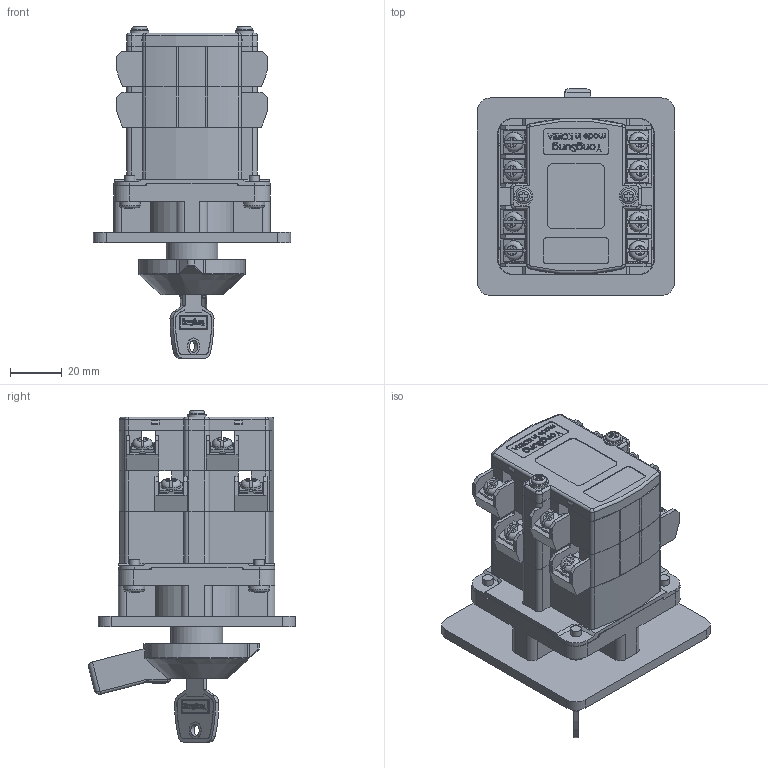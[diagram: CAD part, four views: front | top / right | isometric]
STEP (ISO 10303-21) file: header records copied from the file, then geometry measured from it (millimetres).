
FILE_DESCRIPTION(/* description */ (''),/* implementation_level */ '2;1');
FILE_NAME(/* name */ 'C:\Users\Oh\Desktop\YSKDNC3211-74M20L3.stp',/* time_stamp */ '2021-05-24T10:31:37+09:00',/* author */ ('우현곤'),/* organization */ (''),/* preprocessor_version */ 'ST-DEVELOPER v16.5',/* originating_system */ 'Autodesk Inventor 2017',/* authorisation */ '');
FILE_SCHEMA (('AUTOMOTIVE_DESIGN { 1 0 10303 214 3 1 1 }'));
Length unit declared in the file: millimetre
Products named in the file (19): YSKDNC3211-74M20L3; SCREW WASHER M3.5; BRACKET 6TYPE; SHAFT 6; SCREW 4; mounting plate; body; Kye assy; handle; name plate; Kye; HANDLE BOLT; BOLT M4; contact block ass'y 30A 121107.SLDPRT; contact block 30A 121107; terminal-1 30A 121107; terminal-2 30A 121107; cover 30A 121107; body 30A 121107
Assembly tree (30 placements, depth 2):
  YSKDNC3211-74M20L3
    SCREW WASHER M3.5  x2
    BRACKET 6TYPE
    SHAFT 6
    SCREW 4  x8
    mounting plate
    body
    Kye assy
    handle
    name plate
    Kye
    HANDLE BOLT
    BOLT M4  x4
    cover 30A 121107
    body 30A 121107
  contact block ass'y 30A 121107.SLDPRT
    contact block 30A 121107
    terminal-1 30A 121107  x2
    terminal-2 30A 121107  x2
Bounding box: 76 x 79.62 x 127.85 mm (x, y, z)
Volume: 214671.7 mm3; surface area: 98223.6 mm2
Topology: 35 solids, 35 shells, 2354 faces, 6395 edges, 4210 vertices
Faces by surface type: plane 1703, cylinder 315, bspline 290, torus 21, cone 21, sphere 4
Full cylindrical faces by diameter (mm): 2.395 x8, 2.5 x2, 3 x2, 3.3 x8, 3.4 x2, 3.5 x6, 3.8 x2, 4 x12, 4.4 x2, 4.5 x13, 5.5 x1, 5.9 x2, 6.5 x2, 7.2 x2, 7.6 x8, 8 x4, 12.2 x1, 15 x1, 18.5 x1, 20 x2, 20.2 x1, 20.3 x1, 30 x1, 70 x1, 70.3 x1
Entity records: 49948 total; most frequent: CARTESIAN_POINT 17310, ORIENTED_EDGE 7056, DIRECTION 5754, EDGE_CURVE 3528, LINE 2370, VECTOR 2370, VERTEX_POINT 2370, AXIS2_PLACEMENT_3D 1692
